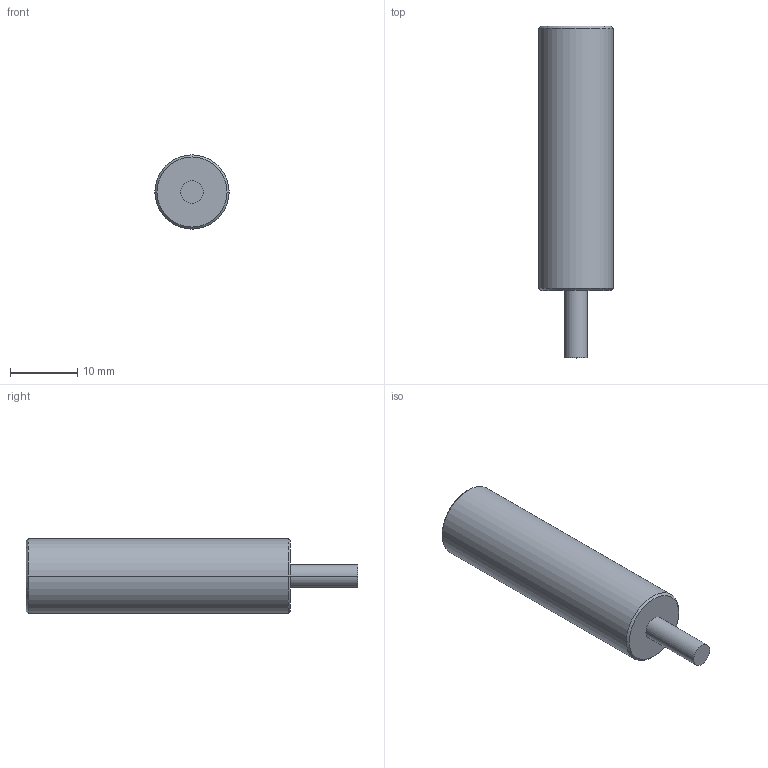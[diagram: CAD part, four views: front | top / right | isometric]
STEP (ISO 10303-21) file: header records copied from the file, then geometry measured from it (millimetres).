
FILE_DESCRIPTION((''),'2;1');
FILE_NAME('POLE_39_2','2012-11-01T',('asus'),(''),'PRO/ENGINEER BY PARAMETRIC TECHNOLOGY CORPORATION, 2010480','PRO/ENGINEER BY PARAMETRIC TECHNOLOGY CORPORATION, 2010480','');
FILE_SCHEMA(('CONFIG_CONTROL_DESIGN'));
Length unit declared in the file: millimetre
Products named in the file (1): POLE_39_2
Bounding box: 11 x 49.2 x 11 mm (x, y, z)
Volume: 3722.2 mm3; surface area: 1746 mm2
Topology: 1 solids, 1 shells, 14 faces, 26 edges, 16 vertices
Faces by surface type: cylinder 6, plane 4, cone 4
Entity records: 392 total; most frequent: DIRECTION 70, CARTESIAN_POINT 56, ORIENTED_EDGE 52, AXIS2_PLACEMENT_3D 30, EDGE_CURVE 26, VERTEX_POINT 16, EDGE_LOOP 16, CIRCLE 16
